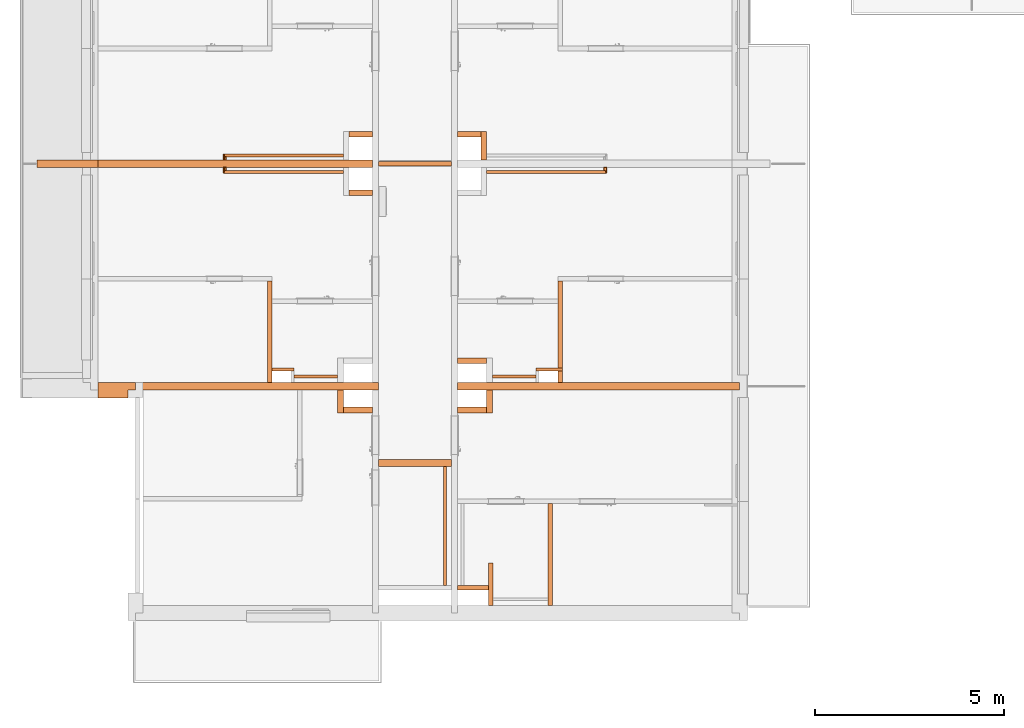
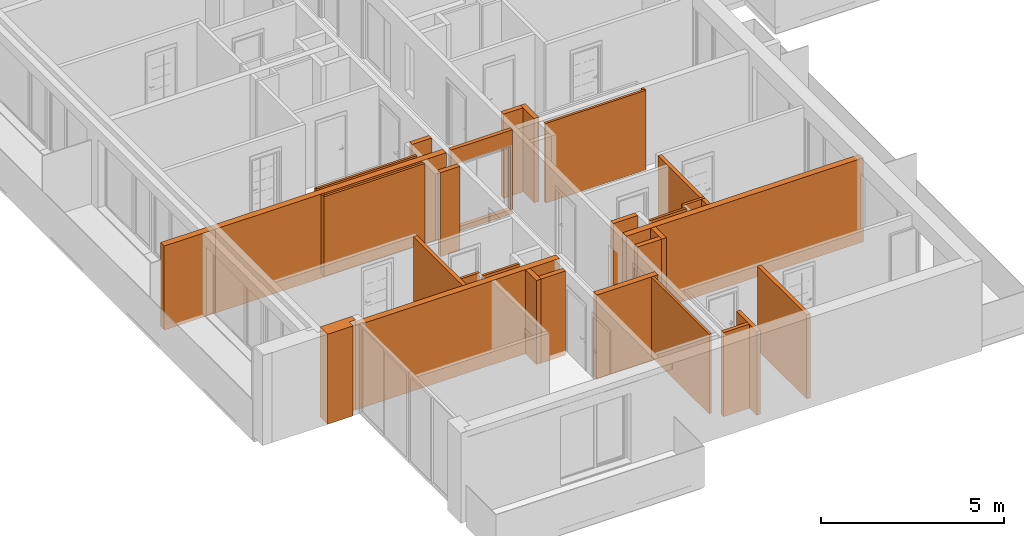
# One storey, part 52 of 66: 32 proxies, 1 opening.
"""IFC2X3 building model written with IfcOpenShell, lengths in millimetres."""

from ifc_helpers import new_model, entity, si_unit, converted_unit, derived_unit, money_unit, direction, frame, origin_with_axes, origin_2d_with_axis, place, context, subcontext, project, spatial, rectangle, extrude, faceted_brep, material, material_list, type_object, element, save


model = new_model("IFC2X3")

# Units and contexts
model_context = context("Model", 3, precision=0.01, world=origin_with_axes(), true_north=direction((0.34421633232, 0.938890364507)))
body_context = subcontext(model_context, "Body", "Model", "MODEL_VIEW")
ifc_project = project(units=[si_unit("LENGTHUNIT", "METRE", prefix="MILLI"), si_unit("AREAUNIT", "SQUARE_METRE"), si_unit("VOLUMEUNIT", "CUBIC_METRE"), converted_unit("PLANEANGLEUNIT", "DEGREE", entity("IfcPlaneAngleMeasure", 0.0174532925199), si_unit("PLANEANGLEUNIT", "RADIAN"), dimensions=[0, 0, 0, 0, 0, 0, 0]), si_unit("SOLIDANGLEUNIT", "STERADIAN"), money_unit("USD"), converted_unit("TIMEUNIT", "Year", entity("IfcTimeMeasure", 31556926.0), si_unit("TIMEUNIT", "SECOND"), dimensions=[0, 0, 1, 0, 0, 0, 0]), si_unit("MASSUNIT", "GRAM", prefix="KILO"), si_unit("THERMODYNAMICTEMPERATUREUNIT", "DEGREE_CELSIUS"), si_unit("LUMINOUSINTENSITYUNIT", "LUMEN"), si_unit("ENERGYUNIT", "JOULE", prefix="MEGA"), derived_unit("THERMALCONDUCTANCEUNIT", [(si_unit("POWERUNIT", "WATT"), 1), (si_unit("LENGTHUNIT", "METRE"), -1), (si_unit("THERMODYNAMICTEMPERATUREUNIT", "KELVIN"), -1)]), derived_unit("SPECIFICHEATCAPACITYUNIT", [(si_unit("ENERGYUNIT", "JOULE"), 1), (si_unit("MASSUNIT", "GRAM", prefix="KILO"), -1), (si_unit("THERMODYNAMICTEMPERATUREUNIT", "KELVIN"), -1)]), derived_unit("MASSDENSITYUNIT", [(si_unit("MASSUNIT", "GRAM", prefix="KILO"), 1), (si_unit("VOLUMEUNIT", "CUBIC_METRE"), -1)])], contexts=[model_context])

# Site, building, storey
site_placement = place(None, origin_with_axes())
site = spatial("IfcSite", under=ifc_project, at=site_placement, Name="USTRONIE MORSKIE", CompositionType="ELEMENT")
building_placement = place(site_placement, origin_with_axes())
building = spatial("IfcBuilding", under=site, at=building_placement, Name="Budynek", CompositionType="ELEMENT")
storey_placement = place(building_placement, frame((0.0, 0.0, 10000.0), z_axis=(0.0, 0.0, 1.0), x_axis=(1.0, 0.0, 0.0)))
storey = spatial("IfcBuildingStorey", under=building, at=storey_placement, Name="PIĘTRO 3", CompositionType="ELEMENT", Elevation=10000.0)

# Proxy, opening
ifc_material_1 = material(Name="Bloczki silikatowe")
building_element_proxy_type_1 = type_object("IfcBuildingElementProxyType", Name="Bloczki silikatowe 120", PredefinedType="NOTDEFINED")
proxy_1_placement = place(storey_placement, frame((359617.920919, 721001.199036, -160.0), z_axis=(0.0, 0.0, 1.0), x_axis=(-1.0, 0.0, 0.0)))
proxy_1 = element("IfcBuildingElementProxy", 1, at=proxy_1_placement, inside=storey, type_object=building_element_proxy_type_1, material=ifc_material_1, Name="SW-04", context=body_context, shape_type="Brep", body=[
    faceted_brep([(2020.0, 59.9999999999, 2800.0), (80.0, 59.9999999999, 2800.0), (80.0, -59.9999999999, 2800.0), (2020.0, -59.9999999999, 2800.0), (2020.0, 59.9999999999, 0.0), (80.0, 59.9999999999, 0.0), (80.0, -59.9999999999, 0.0), (2020.0, -59.9999999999, 0.0)], [[[0, 1, 2, 3]], [[4, 5, 1, 0]], [[5, 6, 2, 1]], [[3, 2, 6, 7]], [[7, 4, 0, 3]], [[7, 6, 5, 4]]]),
])
opening_placement = place(proxy_1_placement, frame((1050.0, 0.0, 160.0), z_axis=(0.0, 0.0, 1.0), x_axis=(1.0, 0.0, 0.0)))
element("IfcOpeningElement", 2, at=opening_placement, cuts=proxy_1, Name="Dw.5s", context=body_context, shape_type="SweptSolid", body=[
    extrude(rectangle(XDim=1820.0, YDim=2120.0, at=origin_2d_with_axis()), frame((0.0, 120.0, 1060.0), z_axis=(0.0, 1.0, 0.0), x_axis=(1.0, 0.0, 0.0)), (0.0, 0.0, -1.0), 360.0),
    extrude(rectangle(XDim=1894.0, YDim=2157.0, at=origin_2d_with_axis()), frame((0.0, 60.0000000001, 1078.5), z_axis=(0.0, 1.0, 0.0), x_axis=(1.0, 0.0, 0.0)), (0.0, 0.0, 1.0), 120.0),
    extrude(rectangle(XDim=1894.0, YDim=2157.0, at=origin_2d_with_axis()), frame((0.0, -59.9999999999, 1078.5), z_axis=(0.0, -1.0, 0.0), x_axis=(1.0, 0.0, 0.0)), (0.0, 0.0, 1.0), 120.0),
])

# Proxies
proxy_2_placement = place(storey_placement, frame((362147.920919, 709201.199036, -160.0), z_axis=(0.0, 0.0, 1.0), x_axis=(0.0, 1.0, 0.0)))
element("IfcBuildingElementProxy", 3, at=proxy_2_placement, inside=storey, type_object=building_element_proxy_type_1, material=ifc_material_1, Name="SW-04", context=body_context, shape_type="Brep", body=[
    faceted_brep([(2790.01936646, -60.0, 2800.0), (2790.01936646, 60.0, 2800.0), (100.0, 60.0, 2800.0), (100.0, -60.0, 2800.0), (2790.01936646, -60.0, 0.0), (2790.01936646, 60.0, 0.0), (100.0, 60.0, 0.0), (100.0, -60.0, 0.0)], [[[0, 1, 2, 3]], [[1, 0, 4, 5]], [[1, 5, 6, 2]], [[7, 3, 2, 6]], [[4, 0, 3, 7]], [[5, 4, 7, 6]]]),
])
proxy_3_placement = place(storey_placement, frame((362417.920919, 715101.199036, -160.0), z_axis=(0.0, 0.0, 1.0), x_axis=(0.0, 1.0, 0.0)))
element("IfcBuildingElementProxy", 4, at=proxy_3_placement, inside=storey, type_object=building_element_proxy_type_1, material=ifc_material_1, Name="SW-04", context=body_context, shape_type="Brep", body=[
    faceted_brep([(400.000444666, -60.0, 2800.0), (400.000444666, 60.0, 2800.0), (99.9999880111, 60.0, 2800.0), (99.9999874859, -60.0, 2800.0), (400.000444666, -60.0, 0.0), (400.000444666, 60.0, 0.0), (99.9999880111, 60.0, 0.0), (99.9999874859, -60.0, 0.0)], [[[0, 1, 2, 3]], [[1, 0, 4, 5]], [[1, 5, 6, 2]], [[7, 3, 2, 6]], [[4, 0, 3, 7]], [[5, 4, 7, 6]]]),
    faceted_brep([(2790.01935038, -60.0, 2800.0), (2790.01935038, 60.0, 2800.0), (480.000444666, 60.0, 2800.0), (480.000444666, -60.0, 2800.0), (2790.01935038, -60.0, 0.0), (2790.01935038, 60.0, 0.0), (480.000444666, 60.0, 0.0), (480.000444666, -60.0, 0.0)], [[[0, 1, 2, 3]], [[1, 0, 4, 5]], [[1, 5, 6, 2]], [[7, 3, 2, 6]], [[4, 0, 3, 7]], [[5, 4, 7, 6]]]),
])
proxy_4_placement = place(storey_placement, frame((354717.920919, 715101.199036, -160.0), z_axis=(0.0, 0.0, 1.0), x_axis=(0.0, 1.0, 0.0)))
element("IfcBuildingElementProxy", 5, at=proxy_4_placement, inside=storey, type_object=building_element_proxy_type_1, material=ifc_material_1, Name="SW-04", context=body_context, shape_type="Brep", body=[
    faceted_brep([(2790.01935038, 60.0, 0.0), (2790.01935038, -60.0, 0.0), (100.0, -60.0, 0.0), (100.0, 60.0, 0.0), (2790.01935038, 60.0, 2800.0), (2790.01935038, -60.0, 2800.0), (100.0, -60.0, 2800.0), (100.0, 60.0, 2800.0)], [[[0, 1, 2, 3]], [[1, 0, 4, 5]], [[1, 5, 6, 2]], [[7, 3, 2, 6]], [[4, 0, 3, 7]], [[5, 4, 7, 6]]]),
])
proxy_5_placement = place(storey_placement, frame((359617.920919, 709701.199036, -160.0), z_axis=(0.0, 0.0, 1.0), x_axis=(1.0, 0.0, 0.0)))
element("IfcBuildingElementProxy", 6, at=proxy_5_placement, inside=storey, type_object=building_element_proxy_type_1, material=ifc_material_1, Name="SW-04", context=body_context, shape_type="Brep", body=[
    faceted_brep([(900.0, 120.0, 0.0), (900.0, 0.0, 0.0), (80.0, 0.0, 0.0), (80.0, 120.0, 0.0), (900.0, 120.0, 2800.0), (900.0, 0.0, 2800.0), (80.0, 0.0, 2800.0), (80.0, 120.0, 2800.0)], [[[0, 1, 2, 3]], [[1, 0, 4, 5]], [[1, 5, 6, 2]], [[7, 3, 2, 6]], [[4, 0, 3, 7]], [[5, 4, 7, 6]]]),
])
proxy_6_placement = place(storey_placement, frame((360517.920919, 710416.199036, -160.0), z_axis=(0.0, 0.0, 1.0), x_axis=(0.0, -1.0, 0.0)))
element("IfcBuildingElementProxy", 7, at=proxy_6_placement, inside=storey, type_object=building_element_proxy_type_1, material=ifc_material_1, Name="SW-04", context=body_context, shape_type="Brep", body=[
    faceted_brep([(1115.0, 120.0, 0.0), (1115.0, 0.0, 0.0), (0.0, 0.0, 0.0), (0.0, 120.0, 0.0), (1115.0, 120.0, 2800.0), (1115.0, 0.0, 2800.0), (0.0, 0.0, 2800.0), (0.0, 120.0, 2800.0)], [[[0, 1, 2, 3]], [[1, 0, 4, 5]], [[1, 5, 6, 2]], [[7, 3, 2, 6]], [[4, 0, 3, 7]], [[5, 4, 7, 6]]]),
])
ifc_material_2 = material(Name="Tynk zewnętrzny")
ifc_material_3 = material(Name="Wełna ELEW")
ifc_material_4 = material(Name="Beton konstrukcyjny B25")
ifc_material_list_1 = material_list([ifc_material_2, ifc_material_3, ifc_material_4])
building_element_proxy_type_2 = type_object("IfcBuildingElementProxyType", Name="20+20 410", PredefinedType="NOTDEFINED")
proxy_7_placement = place(storey_placement, frame((351267.920919, 715101.199036, -160.0), z_axis=(0.0, 0.0, 1.0), x_axis=(-1.0, 0.0, 0.0)))
element("IfcBuildingElementProxy", 8, at=proxy_7_placement, inside=storey, type_object=building_element_proxy_type_2, material=ifc_material_list_1, Name="SZ-01", context=body_context, shape_type="Brep", body=[
    faceted_brep([(310.0, 310.0, 2800.0), (310.0, 300.0, 2800.0), (310.0, 300.0, 3000.0), (310.0, 310.0, 3000.0), (310.0, 300.0, 0.0), (310.0, 310.0, 0.0), (1100.0, 300.0, 0.0), (1100.0, 300.0, 3000.0), (1100.0, 310.0, 3000.0), (1100.0, 310.0, 0.0)], [[[0, 1, 2, 3]], [[4, 1, 0, 5]], [[1, 4, 6, 7, 2]], [[3, 2, 7, 8]], [[5, 0, 3, 8, 9]], [[4, 5, 9, 6]], [[8, 7, 6, 9]]]),
    faceted_brep([(300.0, 300.0, 2800.0), (300.0, 100.0, 2800.0), (300.0, 100.0, 3000.0), (300.0, 300.0, 3000.0), (300.0, 100.0, 0.0), (300.0, 300.0, 0.0), (1100.0, 100.0, 0.0), (1100.0, 100.0, 3000.0), (1100.0, 300.0, 3000.0), (1100.0, 300.0, 0.0)], [[[0, 1, 2, 3]], [[4, 1, 0, 5]], [[1, 4, 6, 7, 2]], [[3, 2, 7, 8]], [[5, 0, 3, 8, 9]], [[4, 5, 9, 6]], [[8, 7, 6, 9]]]),
    faceted_brep([(100.0, 100.0, 2800.0), (100.0, -100.0, 2800.0), (100.0, -100.0, 3000.0), (100.0, 100.0, 3000.0), (100.0, -100.0, 0.0), (100.0, 100.0, 0.0), (1100.0, -99.9999999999, 0.0), (1100.0, -99.9999999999, 3000.0), (1100.0, 100.0, 3000.0), (1100.0, 100.0, 0.0)], [[[0, 1, 2, 3]], [[4, 1, 0, 5]], [[1, 4, 6, 7, 2]], [[3, 2, 7, 8]], [[5, 0, 3, 8, 9]], [[4, 5, 9, 6]], [[8, 7, 6, 9]]]),
])
building_element_proxy_type_3 = type_object("IfcBuildingElementProxyType", Name="Bloczki silikatowe 180", PredefinedType="NOTDEFINED")
proxy_8_placement = place(storey_placement, frame((359617.920919, 713071.199036, -160.0), z_axis=(0.0, 0.0, 1.0), x_axis=(-1.0, 0.0, 0.0)))
element("IfcBuildingElementProxy", 9, at=proxy_8_placement, inside=storey, type_object=building_element_proxy_type_3, material=ifc_material_1, Name="SW-02", context=body_context, shape_type="Brep", body=[
    faceted_brep([(2020.0, 90.0, 0.0), (2020.0, -90.0, 0.0), (80.0, -90.0, 0.0), (80.0, 90.0, 0.0), (2020.0, 90.0, 2800.0), (2020.0, -90.0, 2800.0), (80.0, -90.0, 2800.0), (80.0, 90.0, 2800.0)], [[[0, 1, 2, 3]], [[1, 0, 4, 5]], [[1, 5, 6, 2]], [[7, 3, 2, 6]], [[4, 0, 3, 7]], [[5, 4, 7, 6]]]),
])
ifc_material_5 = material(Name="Płyta GK")
ifc_material_6 = material(Name="-Pustka powietrzna")
ifc_material_list_2 = material_list([ifc_material_5, ifc_material_5, ifc_material_6])
building_element_proxy_type_4 = type_object("IfcBuildingElementProxyType", Name="330-SD GK 2-warstwy 75", PredefinedType="NOTDEFINED")
proxy_9_placement = place(storey_placement, frame((353517.920919, 721001.199036, -180.0), z_axis=(0.0, 0.0, 1.0), x_axis=(0.0, 1.0, 0.0)))
element("IfcBuildingElementProxy", 10, at=proxy_9_placement, inside=storey, type_object=building_element_proxy_type_4, material=ifc_material_list_2, Name="Ściana-009", context=body_context, shape_type="Brep", body=[
    faceted_brep([(100.0, 12.5, 165.0), (242.5, 12.5, 165.0), (242.5, 12.5, 2820.0), (100.0, 12.5, 2820.0), (242.5, 25.0, 165.0), (100.0, 25.0, 165.0), (242.5, 25.0, 2820.0), (100.0, 25.0, 2820.0)], [[[0, 1, 2, 3]], [[4, 1, 0, 5]], [[1, 4, 6, 2]], [[6, 7, 3, 2]], [[5, 0, 3, 7]], [[4, 5, 7, 6]]]),
    faceted_brep([(100.0, 0.0, 165.0), (230.0, 0.0, 165.0), (230.0, 0.0, 2820.0), (100.0, 0.0, 2820.0), (230.0, 12.5, 165.0), (100.0, 12.5, 165.0), (230.0, 12.5, 2820.0), (100.0, 12.5, 2820.0)], [[[0, 1, 2, 3]], [[4, 1, 0, 5]], [[1, 4, 6, 2]], [[6, 7, 3, 2]], [[5, 0, 3, 7]], [[4, 5, 7, 6]]]),
    faceted_brep([(100.0, -50.0, 180.0), (180.0, -50.0, 180.0), (180.0, -50.0, 2820.0), (100.0, -50.0, 2820.0), (180.0, 0.0, 180.0), (100.0, 0.0, 180.0), (180.0, 0.0, 2820.0), (100.0, 0.0, 2820.0)], [[[0, 1, 2, 3]], [[4, 1, 0, 5]], [[1, 4, 6, 2]], [[6, 7, 3, 2]], [[5, 0, 3, 7]], [[4, 5, 7, 6]]]),
])
ifc_material_list_3 = material_list([ifc_material_6, ifc_material_5, ifc_material_5])
proxy_10_placement = place(storey_placement, frame((353517.920919, 721001.199036, -180.0), z_axis=(0.0, 0.0, 1.0), x_axis=(0.0, -1.0, 0.0)))
element("IfcBuildingElementProxy", 11, at=proxy_10_placement, inside=storey, type_object=building_element_proxy_type_4, material=ifc_material_list_3, Name="Ściana-009", context=body_context, shape_type="Brep", body=[
    faceted_brep([(180.0, 50.0, 180.0), (100.0, 50.0, 180.0), (100.0, 50.0, 2820.0), (180.0, 50.0, 2820.0), (100.0, 0.0, 180.0), (180.0, 0.0, 180.0), (100.0, 0.0, 2820.0), (180.0, 0.0, 2820.0)], [[[0, 1, 2, 3]], [[4, 1, 0, 5]], [[1, 4, 6, 2]], [[3, 2, 6, 7]], [[5, 0, 3, 7]], [[4, 5, 7, 6]]]),
    faceted_brep([(230.0, 0.0, 165.0), (100.0, 0.0, 165.0), (100.0, 0.0, 2820.0), (230.0, 0.0, 2820.0), (100.0, -12.5, 165.0), (230.0, -12.5, 165.0), (100.0, -12.5, 2820.0), (230.0, -12.5, 2820.0)], [[[0, 1, 2, 3]], [[4, 1, 0, 5]], [[1, 4, 6, 2]], [[3, 2, 6, 7]], [[5, 0, 3, 7]], [[4, 5, 7, 6]]]),
    faceted_brep([(242.5, -12.5, 165.0), (100.0, -12.5, 165.0), (100.0, -12.5, 2820.0), (242.5, -12.5, 2820.0), (100.0, -25.0, 165.0), (242.5, -25.0, 165.0), (100.0, -25.0, 2820.0), (242.5, -25.0, 2820.0)], [[[0, 1, 2, 3]], [[4, 1, 0, 5]], [[1, 4, 6, 2]], [[3, 2, 6, 7]], [[5, 0, 3, 7]], [[4, 5, 7, 6]]]),
])
proxy_11_placement = place(storey_placement, frame((355317.905919, 715371.200737, -180.0), z_axis=(0.0, 0.0, 1.0), x_axis=(1.0, 0.0, 0.0)))
element("IfcBuildingElementProxy", 12, at=proxy_11_placement, inside=storey, type_object=building_element_proxy_type_4, material=ifc_material_list_2, Name="Ściana-009", context=body_context, shape_type="Brep", body=[
    faceted_brep([(1200.01409883, 12.5, 165.0), (1200.01409883, 25.0, 165.0), (1200.01409883, 25.0, 2820.0), (1200.01409883, 12.5, 2820.0), (40.015, 25.0, 165.0), (40.015, 12.5, 165.0), (40.015, 25.0, 2820.0), (40.015, 12.5, 2820.0)], [[[0, 1, 2, 3]], [[4, 1, 0, 5]], [[1, 4, 6, 2]], [[2, 6, 7, 3]], [[5, 0, 3, 7]], [[4, 5, 7, 6]]]),
    faceted_brep([(1200.01409883, 0.0, 165.0), (1200.01409883, 12.5, 165.0), (1200.01409883, 12.5, 2820.0), (1200.01409883, 0.0, 2820.0), (40.015, 12.5, 165.0), (40.015, 0.0, 165.0), (40.015, 12.5, 2820.0), (40.015, 0.0, 2820.0)], [[[0, 1, 2, 3]], [[4, 1, 0, 5]], [[1, 4, 6, 2]], [[2, 6, 7, 3]], [[5, 0, 3, 7]], [[4, 5, 7, 6]]]),
    faceted_brep([(1200.01409883, -50.0, 180.0), (1200.01409883, 0.0, 180.0), (1200.01409883, 0.0, 2820.0), (1200.01409883, -50.0, 2820.0), (40.015, 0.0, 180.0), (40.015, -50.0, 180.0), (40.015, 0.0, 2820.0), (40.015, -50.0, 2820.0)], [[[0, 1, 2, 3]], [[4, 1, 0, 5]], [[1, 4, 6, 2]], [[2, 6, 7, 3]], [[5, 0, 3, 7]], [[4, 5, 7, 6]]]),
])
proxy_12_placement = place(storey_placement, frame((363617.920919, 721001.199036, -180.0), z_axis=(0.0, 0.0, 1.0), x_axis=(0.0, -1.0, 0.0)))
element("IfcBuildingElementProxy", 13, at=proxy_12_placement, inside=storey, type_object=building_element_proxy_type_4, material=ifc_material_list_2, Name="Ściana-009", context=body_context, shape_type="Brep", body=[
    faceted_brep([(242.5, 25.0, 165.0), (100.0, 25.0, 165.0), (100.0, 25.0, 2820.0), (242.5, 25.0, 2820.0), (100.0, 12.5, 165.0), (242.5, 12.5, 165.0), (100.0, 12.5, 2820.0), (242.5, 12.5, 2820.0)], [[[0, 1, 2, 3]], [[4, 1, 0, 5]], [[1, 4, 6, 2]], [[3, 2, 6, 7]], [[5, 0, 3, 7]], [[4, 5, 7, 6]]]),
    faceted_brep([(230.0, 12.5, 165.0), (100.0, 12.5, 165.0), (100.0, 12.5, 2820.0), (230.0, 12.5, 2820.0), (100.0, 0.0, 165.0), (230.0, 0.0, 165.0), (100.0, 0.0, 2820.0), (230.0, 0.0, 2820.0)], [[[0, 1, 2, 3]], [[4, 1, 0, 5]], [[1, 4, 6, 2]], [[3, 2, 6, 7]], [[5, 0, 3, 7]], [[4, 5, 7, 6]]]),
    faceted_brep([(180.0, 0.0, 180.0), (100.0, 0.0, 180.0), (100.0, 0.0, 2820.0), (180.0, 0.0, 2820.0), (100.0, -50.0, 180.0), (180.0, -50.0, 180.0), (100.0, -50.0, 2820.0), (180.0, -50.0, 2820.0)], [[[0, 1, 2, 3]], [[4, 1, 0, 5]], [[1, 4, 6, 2]], [[3, 2, 6, 7]], [[5, 0, 3, 7]], [[4, 5, 7, 6]]]),
])
proxy_13_placement = place(storey_placement, frame((359372.920919, 713071.199036, -160.0), z_axis=(0.0, 0.0, 1.0), x_axis=(0.0, -1.0, 0.0)))
element("IfcBuildingElementProxy", 14, at=proxy_13_placement, inside=storey, type_object=building_element_proxy_type_4, material=ifc_material_list_3, Name="Ściana-009", context=body_context, shape_type="Brep", body=[
    faceted_brep([(3249.99999956, 25.0, 160.0), (90.0, 25.0, 160.0), (90.0, 25.0, 2800.0), (3249.99999956, 25.0, 2800.0), (90.0, -25.0, 160.0), (3249.99999956, -25.0, 160.0), (90.0, -25.0, 2800.0), (3249.99999956, -25.0, 2800.0)], [[[0, 1, 2, 3]], [[4, 1, 0, 5]], [[1, 4, 6, 2]], [[7, 3, 2, 6]], [[5, 0, 3, 7]], [[4, 5, 7, 6]]]),
    faceted_brep([(3249.99999956, -25.0, 145.0), (90.0, -25.0, 145.0), (90.0, -25.0, 2800.0), (3249.99999956, -25.0, 2800.0), (90.0, -37.5, 145.0), (3249.99999956, -37.5, 145.0), (90.0, -37.5, 2800.0), (3249.99999956, -37.5, 2800.0)], [[[0, 1, 2, 3]], [[4, 1, 0, 5]], [[1, 4, 6, 2]], [[7, 3, 2, 6]], [[5, 0, 3, 7]], [[4, 5, 7, 6]]]),
    faceted_brep([(3249.99999956, -37.5, 145.0), (90.0, -37.5, 145.0), (90.0, -37.5, 2800.0), (3249.99999956, -37.5, 2800.0), (90.0, -50.0, 145.0), (3249.99999956, -50.0, 145.0), (90.0, -50.0, 2800.0), (3249.99999956, -50.0, 2800.0)], [[[0, 1, 2, 3]], [[4, 1, 0, 5]], [[1, 4, 6, 2]], [[7, 3, 2, 6]], [[5, 0, 3, 7]], [[4, 5, 7, 6]]]),
])
proxy_14_placement = place(storey_placement, frame((360317.920919, 720771.199036, -180.0), z_axis=(0.0, 0.0, 1.0), x_axis=(1.0, 0.0, 0.0)))
element("IfcBuildingElementProxy", 15, at=proxy_14_placement, inside=storey, type_object=building_element_proxy_type_4, material=ifc_material_list_3, Name="Ściana-009", context=body_context, shape_type="Brep", body=[
    faceted_brep([(3300.0, 0.0, 180.0), (3300.0, 50.0, 180.0), (3300.0, 50.0, 2820.0), (3300.0, 0.0, 2820.0), (150.0, 50.0, 180.0), (150.0, 0.0, 180.0), (150.0, 50.0, 2820.0), (150.0, 0.0, 2820.0)], [[[0, 1, 2, 3]], [[4, 1, 0, 5]], [[1, 4, 6, 2]], [[2, 6, 7, 3]], [[5, 0, 3, 7]], [[4, 5, 7, 6]]]),
    faceted_brep([(3312.5, -12.5, 165.0), (3312.5, 0.0, 165.0), (3312.5, 0.0, 2820.0), (3312.5, -12.5, 2820.0), (150.0, 0.0, 165.0), (150.0, -12.5, 165.0), (150.0, 0.0, 2820.0), (150.0, -12.5, 2820.0)], [[[0, 1, 2, 3]], [[4, 1, 0, 5]], [[1, 4, 6, 2]], [[2, 6, 7, 3]], [[5, 0, 3, 7]], [[4, 5, 7, 6]]]),
    faceted_brep([(3325.0, -25.0, 165.0), (3325.0, -12.5, 165.0), (3325.0, -12.5, 2820.0), (3325.0, -25.0, 2820.0), (150.0, -12.5, 165.0), (150.0, -25.0, 165.0), (150.0, -12.5, 2820.0), (150.0, -25.0, 2820.0)], [[[0, 1, 2, 3]], [[4, 1, 0, 5]], [[1, 4, 6, 2]], [[2, 6, 7, 3]], [[5, 0, 3, 7]], [[4, 5, 7, 6]]]),
])
proxy_15_placement = place(storey_placement, frame((356817.920919, 720771.199036, -180.0), z_axis=(0.0, 0.0, 1.0), x_axis=(-1.0, 0.0, 0.0)))
element("IfcBuildingElementProxy", 16, at=proxy_15_placement, inside=storey, type_object=building_element_proxy_type_4, material=ifc_material_list_2, Name="Ściana-009", context=body_context, shape_type="Brep", body=[
    faceted_brep([(150.0, 25.0, 165.0), (150.0, 12.5, 165.0), (150.0, 12.5, 2820.0), (150.0, 25.0, 2820.0), (3325.0, 12.5, 165.0), (3325.0, 25.0, 165.0), (3325.0, 12.5, 2820.0), (3325.0, 25.0, 2820.0)], [[[0, 1, 2, 3]], [[4, 1, 0, 5]], [[1, 4, 6, 2]], [[7, 3, 2, 6]], [[5, 0, 3, 7]], [[4, 5, 7, 6]]]),
    faceted_brep([(150.0, 12.5, 165.0), (150.0, 0.0, 165.0), (150.0, 0.0, 2820.0), (150.0, 12.5, 2820.0), (3312.5, 0.0, 165.0), (3312.5, 12.5, 165.0), (3312.5, 0.0, 2820.0), (3312.5, 12.5, 2820.0)], [[[0, 1, 2, 3]], [[4, 1, 0, 5]], [[1, 4, 6, 2]], [[7, 3, 2, 6]], [[5, 0, 3, 7]], [[4, 5, 7, 6]]]),
    faceted_brep([(150.0, 0.0, 180.0), (150.0, -50.0, 180.0), (150.0, -50.0, 2820.0), (150.0, 0.0, 2820.0), (3300.0, -50.0, 180.0), (3300.0, 0.0, 180.0), (3300.0, -50.0, 2820.0), (3300.0, 0.0, 2820.0)], [[[0, 1, 2, 3]], [[4, 1, 0, 5]], [[1, 4, 6, 2]], [[7, 3, 2, 6]], [[5, 0, 3, 7]], [[4, 5, 7, 6]]]),
])
proxy_16_placement = place(storey_placement, frame((356817.920919, 721231.199036, -180.0), z_axis=(0.0, 0.0, 1.0), x_axis=(-1.0, 0.0, 0.0)))
element("IfcBuildingElementProxy", 17, at=proxy_16_placement, inside=storey, type_object=building_element_proxy_type_4, material=ifc_material_list_3, Name="Ściana-009", context=body_context, shape_type="Brep", body=[
    faceted_brep([(150.0, 50.0, 180.0), (150.0, 0.0, 180.0), (150.0, 0.0, 2820.0), (150.0, 50.0, 2820.0), (3300.0, 0.0, 180.0), (3300.0, 50.0, 180.0), (3300.0, 0.0, 2820.0), (3300.0, 50.0, 2820.0)], [[[0, 1, 2, 3]], [[4, 1, 0, 5]], [[1, 4, 6, 2]], [[7, 3, 2, 6]], [[5, 0, 3, 7]], [[4, 5, 7, 6]]]),
    faceted_brep([(150.0, 0.0, 165.0), (150.0, -12.5, 165.0), (150.0, -12.5, 2820.0), (150.0, 0.0, 2820.0), (3312.5, -12.5, 165.0), (3312.5, 0.0, 165.0), (3312.5, -12.5, 2820.0), (3312.5, 0.0, 2820.0)], [[[0, 1, 2, 3]], [[4, 1, 0, 5]], [[1, 4, 6, 2]], [[7, 3, 2, 6]], [[5, 0, 3, 7]], [[4, 5, 7, 6]]]),
    faceted_brep([(150.0, -12.5, 165.0), (150.0, -25.0, 165.0), (150.0, -25.0, 2820.0), (150.0, -12.5, 2820.0), (3325.0, -25.0, 165.0), (3325.0, -12.5, 165.0), (3325.0, -25.0, 2820.0), (3325.0, -12.5, 2820.0)], [[[0, 1, 2, 3]], [[4, 1, 0, 5]], [[1, 4, 6, 2]], [[7, 3, 2, 6]], [[5, 0, 3, 7]], [[4, 5, 7, 6]]]),
])
proxy_17_placement = place(storey_placement, frame((360542.92182, 715371.197725, -180.0), z_axis=(0.0, 0.0, 1.0), x_axis=(1.0, 0.0, 0.0)))
element("IfcBuildingElementProxy", 18, at=proxy_17_placement, inside=storey, type_object=building_element_proxy_type_4, material=ifc_material_list_2, Name="Ściana-009", context=body_context, shape_type="Brep", body=[
    faceted_brep([(1234.99909883, 12.5, 165.0), (1234.99909883, 25.0, 165.0), (1234.99909883, 25.0, 2820.0), (1234.99909883, 12.5, 2820.0), (75.0, 25.0, 165.0), (75.0, 12.5, 165.0), (75.0, 25.0, 2820.0), (75.0, 12.5, 2820.0)], [[[0, 1, 2, 3]], [[4, 1, 0, 5]], [[1, 4, 6, 2]], [[7, 3, 2, 6]], [[5, 0, 3, 7]], [[4, 5, 7, 6]]]),
    faceted_brep([(1234.99909883, 0.0, 165.0), (1234.99909883, 12.5, 165.0), (1234.99909883, 12.5, 2820.0), (1234.99909883, 0.0, 2820.0), (75.0, 12.5, 165.0), (75.0, 0.0, 165.0), (75.0, 12.5, 2820.0), (75.0, 0.0, 2820.0)], [[[0, 1, 2, 3]], [[4, 1, 0, 5]], [[1, 4, 6, 2]], [[7, 3, 2, 6]], [[5, 0, 3, 7]], [[4, 5, 7, 6]]]),
    faceted_brep([(1234.99909883, -50.0, 180.0), (1234.99909883, 0.0, 180.0), (1234.99909883, 0.0, 2820.0), (1234.99909883, -50.0, 2820.0), (75.0, 0.0, 180.0), (75.0, -50.0, 180.0), (75.0, 0.0, 2820.0), (75.0, -50.0, 2820.0)], [[[0, 1, 2, 3]], [[4, 1, 0, 5]], [[1, 4, 6, 2]], [[7, 3, 2, 6]], [[5, 0, 3, 7]], [[4, 5, 7, 6]]]),
])
building_element_proxy_type_5 = type_object("IfcBuildingElementProxyType", Name="Bloczki silikatowe 80", PredefinedType="NOTDEFINED")
proxy_18_placement = place(storey_placement, frame((354717.920919, 715541.184481, -160.0), z_axis=(0.0, 0.0, 1.0), x_axis=(1.0, 0.0, 0.0)))
element("IfcBuildingElementProxy", 19, at=proxy_18_placement, inside=storey, type_object=building_element_proxy_type_5, material=ifc_material_1, Name="Œciana-007", context=body_context, shape_type="Brep", body=[
    faceted_brep([(640.0, 40.015, 0.0), (640.0, -40.015, 0.0), (60.0, -40.015, 0.0), (60.0, 40.015, 0.0), (640.0, 40.015, 2800.0), (640.0, -40.015, 2800.0), (60.0, -40.015, 2800.0), (60.0, 40.015, 2800.0)], [[[0, 1, 2, 3]], [[1, 0, 4, 5]], [[1, 5, 6, 2]], [[7, 3, 2, 6]], [[4, 0, 3, 7]], [[5, 4, 7, 6]]]),
])
proxy_19_placement = place(storey_placement, frame((362417.920919, 715541.199481, -160.0), z_axis=(0.0, 0.0, 1.0), x_axis=(-1.0, 0.0, 0.0)))
element("IfcBuildingElementProxy", 20, at=proxy_19_placement, inside=storey, type_object=building_element_proxy_type_5, material=ifc_material_1, Name="Ściana-009", context=body_context, shape_type="Brep", body=[
    faceted_brep([(640.0, -40.0, 2800.0), (640.0, 40.0, 2800.0), (-60.0, 40.0, 2800.0), (-60.0, -40.0, 2800.0), (640.0, -40.0, 0.0), (640.0, 40.0, 0.0), (-60.0, 40.0, 0.0), (-60.0, -40.0, 0.0)], [[[0, 1, 2, 3]], [[1, 0, 4, 5]], [[1, 5, 6, 2]], [[7, 3, 2, 6]], [[4, 0, 3, 7]], [[5, 4, 7, 6]]]),
])
building_element_proxy_type_6 = type_object("IfcBuildingElementProxyType", Name="Bloczki silikatowe 150", PredefinedType="NOTDEFINED")
proxy_20_placement = place(storey_placement, frame((360317.920919, 721001.198998, -160.0), z_axis=(0.0, 0.0, 1.0), x_axis=(0.0, 1.0, 0.0)))
element("IfcBuildingElementProxy", 21, at=proxy_20_placement, inside=storey, type_object=building_element_proxy_type_6, material=ifc_material_1, Name="SW-03", context=body_context, shape_type="Brep", body=[
    faceted_brep([(850.000037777, -150.0, 2800.0), (850.000037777, 0.0, 2800.0), (100.000037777, 0.0, 2800.0), (100.000037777, -150.0, 2800.0), (850.000037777, -150.0, 0.0), (850.000037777, 0.0, 0.0), (100.000037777, 0.0, 0.0), (100.000037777, -150.0, 0.0)], [[[0, 1, 2, 3]], [[1, 0, 4, 5]], [[1, 5, 6, 2]], [[7, 3, 2, 6]], [[4, 0, 3, 7]], [[5, 4, 7, 6]]]),
])
proxy_21_placement = place(storey_placement, frame((360542.92182, 715776.201014, -160.0), z_axis=(0.0, 0.0, 1.0), x_axis=(-1.0, 0.0, 0.0)))
element("IfcBuildingElementProxy", 22, at=proxy_21_placement, inside=storey, type_object=building_element_proxy_type_6, material=ifc_material_1, Name="SW-03", context=body_context, shape_type="Brep", body=[
    faceted_brep([(845.00090117, -75.0, 2800.0), (845.00090117, 75.0, 2800.0), (75.0, 75.0, 2800.0), (75.0, -75.0, 2800.0), (845.00090117, -75.0, 0.0), (845.00090117, 75.0, 0.0), (75.0, 75.0, 0.0), (75.0, -75.0, 0.0)], [[[0, 1, 2, 3]], [[1, 0, 4, 5]], [[1, 5, 6, 2]], [[7, 3, 2, 6]], [[4, 0, 3, 7]], [[5, 4, 7, 6]]]),
])
proxy_22_placement = place(storey_placement, frame((360542.92182, 715101.199035, -160.0), z_axis=(0.0, 0.0, 1.0), x_axis=(0.0, -1.0, 0.0)))
element("IfcBuildingElementProxy", 23, at=proxy_22_placement, inside=storey, type_object=building_element_proxy_type_6, material=ifc_material_1, Name="Ściana-009", context=body_context, shape_type="Brep", body=[
    faceted_brep([(700.001982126, 75.0, 0.0), (700.001982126, -75.0, 0.0), (100.000002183, -75.0, 0.0), (100.000002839, 75.0, 0.0), (700.001982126, 75.0, 2800.0), (700.001982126, -75.0, 2800.0), (100.000002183, -75.0, 2800.0), (100.000002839, 75.0, 2800.0)], [[[0, 1, 2, 3]], [[1, 0, 4, 5]], [[1, 5, 6, 2]], [[7, 3, 2, 6]], [[4, 0, 3, 7]], [[5, 4, 7, 6]]]),
])
proxy_23_placement = place(storey_placement, frame((356592.920018, 715101.199036, -160.0), z_axis=(0.0, 0.0, 1.0), x_axis=(0.0, -1.0, 0.0)))
element("IfcBuildingElementProxy", 24, at=proxy_23_placement, inside=storey, type_object=building_element_proxy_type_6, material=ifc_material_1, Name="SW-03", context=body_context, shape_type="Brep", body=[
    faceted_brep([(700.001977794, -75.0, 2800.0), (700.001977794, 75.0, 2800.0), (100.0, 75.0, 2800.0), (100.0, -75.0, 2800.0), (700.001977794, -75.0, 0.0), (700.001977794, 75.0, 0.0), (100.0, 75.0, 0.0), (100.0, -75.0, 0.0)], [[[0, 1, 2, 3]], [[1, 0, 4, 5]], [[1, 5, 6, 2]], [[7, 3, 2, 6]], [[4, 0, 3, 7]], [[5, 4, 7, 6]]]),
])
proxy_24_placement = place(storey_placement, frame((356817.920919, 721701.199036, -160.0), z_axis=(0.0, 0.0, 1.0), x_axis=(1.0, 0.0, 0.0)))
element("IfcBuildingElementProxy", 25, at=proxy_24_placement, inside=storey, type_object=building_element_proxy_type_6, material=ifc_material_1, Name="SW-03", context=body_context, shape_type="Brep", body=[
    faceted_brep([(620.0, 150.0, 0.0), (620.0, 0.0, 0.0), (0.0, 0.0, 0.0), (0.0, 150.0, 0.0), (620.0, 150.0, 2800.0), (620.0, 0.0, 2800.0), (0.0, 0.0, 2800.0), (0.0, 150.0, 2800.0)], [[[0, 1, 2, 3]], [[1, 0, 4, 5]], [[1, 5, 6, 2]], [[7, 3, 2, 6]], [[4, 0, 3, 7]], [[5, 4, 7, 6]]]),
])
proxy_25_placement = place(storey_placement, frame((360317.920919, 721701.199036, -160.0), z_axis=(0.0, 0.0, 1.0), x_axis=(-1.0, 0.0, 0.0)))
element("IfcBuildingElementProxy", 26, at=proxy_25_placement, inside=storey, type_object=building_element_proxy_type_6, material=ifc_material_1, Name="SW-03", context=body_context, shape_type="Brep", body=[
    faceted_brep([(620.0, -150.0, 2800.0), (620.0, 0.0, 2800.0), (0.0, 0.0, 2800.0), (0.0, -150.0, 2800.0), (620.0, -150.0, 0.0), (620.0, 0.0, 0.0), (0.0, 0.0, 0.0), (0.0, -150.0, 0.0)], [[[0, 1, 2, 3]], [[1, 0, 4, 5]], [[1, 5, 6, 2]], [[7, 3, 2, 6]], [[4, 0, 3, 7]], [[5, 4, 7, 6]]]),
])
proxy_26_placement = place(storey_placement, frame((356592.920018, 714476.197058, -160.0), z_axis=(0.0, 0.0, 1.0), x_axis=(1.0, 0.0, 0.0)))
element("IfcBuildingElementProxy", 27, at=proxy_26_placement, inside=storey, type_object=building_element_proxy_type_6, material=ifc_material_1, Name="SW-03", context=body_context, shape_type="Brep", body=[
    faceted_brep([(845.00090117, -75.0, 2800.0), (845.00090117, 75.0, 2800.0), (75.0, 75.0, 2800.0), (75.0, -75.0, 2800.0), (845.00090117, -75.0, 0.0), (845.00090117, 75.0, 0.0), (75.0, 75.0, 0.0), (75.0, -75.0, 0.0)], [[[0, 1, 2, 3]], [[1, 0, 4, 5]], [[1, 5, 6, 2]], [[7, 3, 2, 6]], [[4, 0, 3, 7]], [[5, 4, 7, 6]]]),
])
proxy_27_placement = place(storey_placement, frame((356817.920919, 720301.199036, -160.0), z_axis=(0.0, 0.0, 1.0), x_axis=(1.0, 0.0, 0.0)))
element("IfcBuildingElementProxy", 28, at=proxy_27_placement, inside=storey, type_object=building_element_proxy_type_6, material=ifc_material_1, Name="SW-03", context=body_context, shape_type="Brep", body=[
    faceted_brep([(620.0, -150.0, 2800.0), (620.0, 0.0, 2800.0), (0.0, 0.0, 2800.0), (0.0, -150.0, 2800.0), (620.0, -150.0, 0.0), (620.0, 0.0, 0.0), (0.0, 0.0, 0.0), (0.0, -150.0, 0.0)], [[[0, 1, 2, 3]], [[1, 0, 4, 5]], [[1, 5, 6, 2]], [[7, 3, 2, 6]], [[4, 0, 3, 7]], [[5, 4, 7, 6]]]),
])
proxy_28_placement = place(storey_placement, frame((360542.92182, 714476.197053, -160.0), z_axis=(0.0, 0.0, 1.0), x_axis=(-1.0, 0.0, 0.0)))
element("IfcBuildingElementProxy", 29, at=proxy_28_placement, inside=storey, type_object=building_element_proxy_type_6, material=ifc_material_1, Name="Ściana-009", context=body_context, shape_type="Brep", body=[
    faceted_brep([(845.00090117, 75.0, 0.0), (845.00090117, -75.0, 0.0), (75.0, -75.0, 0.0), (75.0, 75.0, 0.0), (845.00090117, 75.0, 2800.0), (845.00090117, -75.0, 2800.0), (75.0, -75.0, 2800.0), (75.0, 75.0, 2800.0)], [[[0, 1, 2, 3]], [[1, 0, 4, 5]], [[1, 5, 6, 2]], [[7, 3, 2, 6]], [[4, 0, 3, 7]], [[5, 4, 7, 6]]]),
])
building_element_proxy_type_7 = type_object("IfcBuildingElementProxyType", Name="Beton konstrukcyjny B25 200", PredefinedType="NOTDEFINED")
proxy_29_placement = place(storey_placement, frame((367067.944986, 715101.199004, -160.0), z_axis=(0.0, 0.0, 1.0), x_axis=(-1.0, 4.37552519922e-09, 0.0)))
element("IfcBuildingElementProxy", 30, at=proxy_29_placement, inside=storey, type_object=building_element_proxy_type_7, material=ifc_material_4, Name="SW-01", context=body_context, shape_type="Brep", body=[
    faceted_brep([(-99.9997194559, -100.000000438, 2800.0), (7370.02406754, -99.9999677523, 2800.0), (7370.02406667, 100.000032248, 2800.0), (-100.000140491, 99.9999995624, 2800.0), (-99.9997194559, -100.000000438, 0.0), (7370.02406754, -99.9999677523, 0.0), (7370.02406667, 100.000032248, 0.0), (-100.000140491, 99.9999995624, 0.0)], [[[0, 1, 2, 3]], [[4, 5, 1, 0]], [[6, 2, 1, 5]], [[3, 2, 6, 7]], [[7, 4, 0, 3]], [[7, 6, 5, 4]]]),
])
proxy_30_placement = place(storey_placement, frame((351267.920919, 715101.199036, -160.0), z_axis=(0.0, 0.0, 1.0), x_axis=(1.0, 0.0, 0.0)))
element("IfcBuildingElementProxy", 31, at=proxy_30_placement, inside=storey, type_object=building_element_proxy_type_7, material=ifc_material_4, Name="SW-01", context=body_context, shape_type="Brep", body=[
    faceted_brep([(-100.0, 100.0, 0.0), (6330.0, 100.0, 0.0), (6330.0, -100.0, 0.0), (-100.0, -100.0, 0.0), (-100.0, 100.0, 2800.0), (6330.0, 100.0, 2800.0), (6330.0, -100.0, 2800.0), (-100.0, -100.0, 2800.0)], [[[0, 1, 2, 3]], [[4, 5, 1, 0]], [[6, 2, 1, 5]], [[3, 2, 6, 7]], [[7, 4, 0, 3]], [[7, 6, 5, 4]]]),
])
proxy_31_placement = place(storey_placement, frame((350067.920919, 721001.199036, -160.0), z_axis=(0.0, 0.0, 1.0), x_axis=(1.0, 0.0, 0.0)))
element("IfcBuildingElementProxy", 32, at=proxy_31_placement, inside=storey, type_object=building_element_proxy_type_7, material=ifc_material_4, Name="SW-01", context=body_context, shape_type="Brep", body=[
    faceted_brep([(100.0, -100.0, 2800.0), (7370.0, -100.0, 2800.0), (7370.0, 100.0, 2800.0), (100.0, 100.0, 2800.0), (100.0, -100.0, 0.0), (7370.0, -100.0, 0.0), (7370.0, 100.0, 0.0), (100.0, 100.0, 0.0)], [[[0, 1, 2, 3]], [[4, 5, 1, 0]], [[5, 6, 2, 1]], [[3, 2, 6, 7]], [[4, 0, 3, 7]], [[7, 6, 5, 4]]]),
])
proxy_32_placement = place(storey_placement, frame((350067.920919, 721001.199036, -160.0), z_axis=(0.0, 0.0, 1.0), x_axis=(-1.0, 0.0, 0.0)))
element("IfcBuildingElementProxy", 33, at=proxy_32_placement, inside=storey, type_object=building_element_proxy_type_7, material=ifc_material_4, Name="SW-01", context=body_context, shape_type="Brep", body=[
    faceted_brep([(1520.0, 100.0, 2800.0), (-100.0, 100.0, 2800.0), (-100.0, -100.0, 2800.0), (1520.0, -100.0, 2800.0), (1520.0, 100.0, 0.0), (-100.0, 100.0, 0.0), (-100.0, -100.0, 0.0), (1520.0, -100.0, 0.0)], [[[0, 1, 2, 3]], [[4, 5, 1, 0]], [[1, 5, 6, 2]], [[3, 2, 6, 7]], [[7, 4, 0, 3]], [[7, 6, 5, 4]]]),
])

save(model, "model.ifc")
